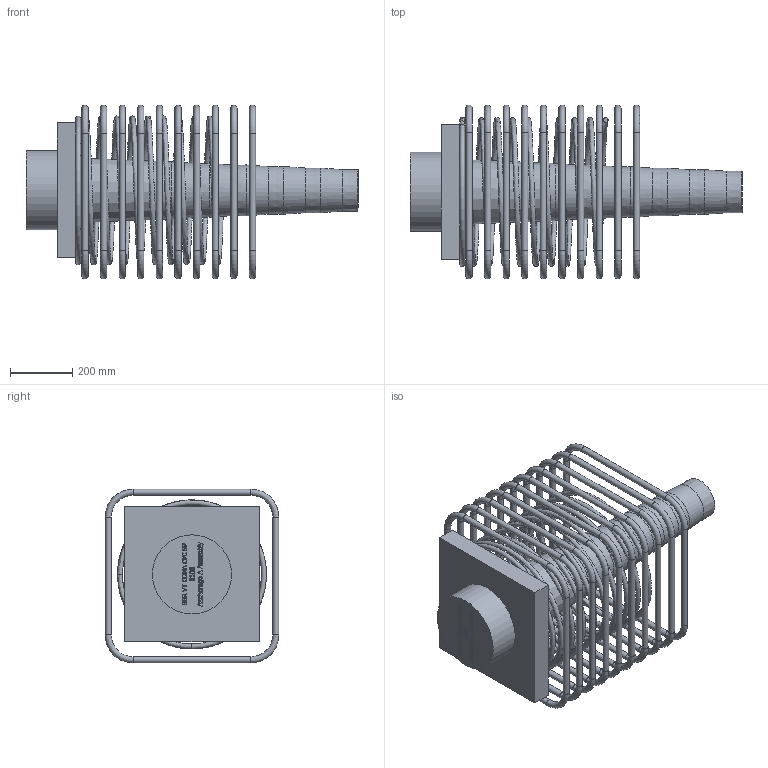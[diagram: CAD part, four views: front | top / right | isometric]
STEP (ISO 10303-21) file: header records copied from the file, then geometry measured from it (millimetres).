
FILE_DESCRIPTION(/* description */ (''),/* implementation_level */ '2;1');
FILE_NAME(/* name */ 'Z:\04 Publications\05 Give-out\BBR\6_3D_Models\BBR VT CONA CMI\BBR VT CONA CMI SP\03106\BBR VT CONA CMI SP 3106_Anchorage A Assembly_CS-34,28.stp',/* time_stamp */ '2017-05-09T10:13:44+02:00',/* author */ ('IP'),/* organization */ (''),/* preprocessor_version */ 'ST-DEVELOPER v16.1',/* originating_system */ 'Autodesk Inventor 2016',/* authorisation */ '');
FILE_SCHEMA (('AUTOMOTIVE_DESIGN { 1 0 10303 214 3 1 1 }'));
Length unit declared in the file: millimetre
Products named in the file (1): BBR VT CONA CMI SP 3106_Anchorage A Assembly_CS-34,28
Bounding box: 1070.1 x 560 x 560 mm (x, y, z)
Volume: 46771873.2 mm3; surface area: 3032029.6 mm2
Topology: 12 solids, 12 shells, 715 faces, 1879 edges, 1223 vertices
Faces by surface type: plane 319, bspline 302, torus 47, cylinder 41, cone 6
Full cylindrical faces by diameter (mm): 20 x40, 255 x1
Entity records: 27979 total; most frequent: CARTESIAN_POINT 11972, ORIENTED_EDGE 3570, DIRECTION 2107, EDGE_CURVE 1782, VERTEX_POINT 1220, LINE 1075, VECTOR 1075, EDGE_LOOP 869
